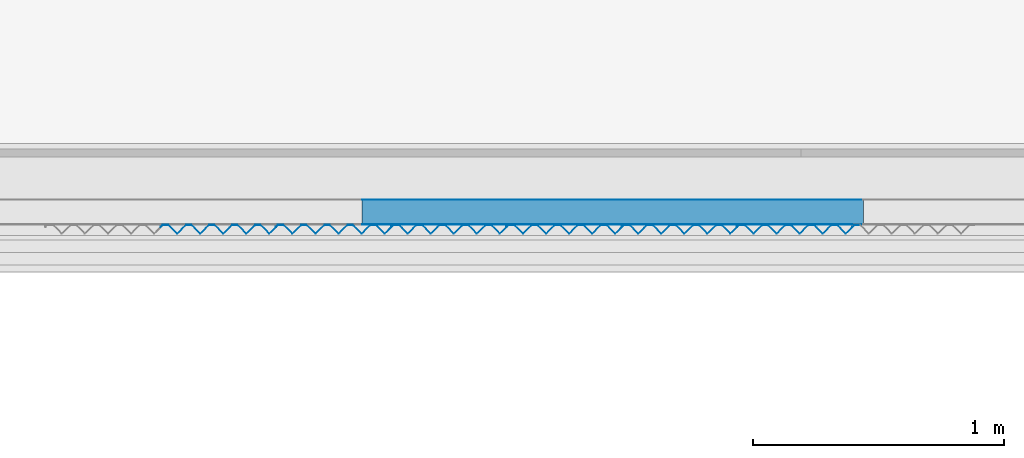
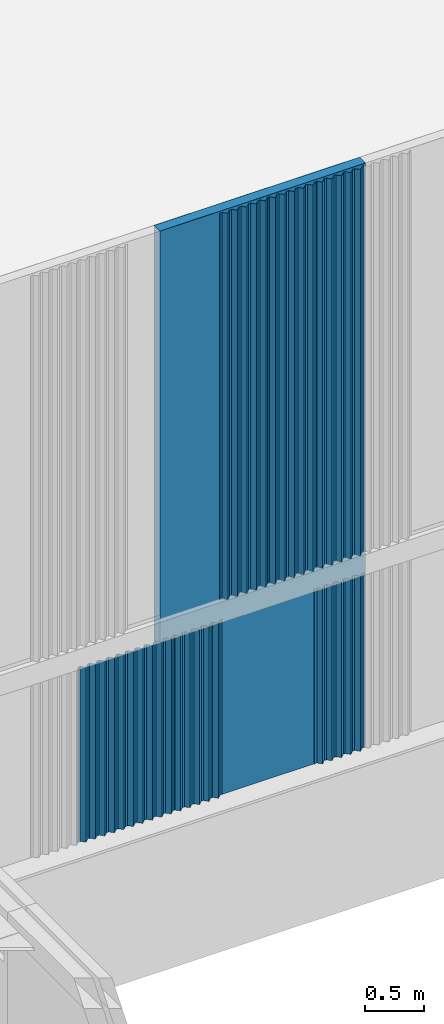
# One storey, part 88 of 338: 10 building element parts, 6 elements without a shape of their own.
"""IFC2X3 building model written with IfcOpenShell, lengths in millimetres."""

from ifc_helpers import new_model, entity, si_unit, converted_unit, derived_unit, money_unit, direction, frame, origin_with_axes, place, context, subcontext, project, spatial, faceted_brep, material, type_object, element, aggregate, save


model = new_model("IFC2X3")

# Units and contexts
model_context = context("Model", 3, precision=0.01, world=origin_with_axes(), true_north=direction((0.0, 1.0)))
plan_context = context("Plan", 3, precision=0.01, world=origin_with_axes(), true_north=direction((0.0, 1.0)))
body_context = subcontext(model_context, "Body", "Model", "MODEL_VIEW")
ifc_project = project(units=[si_unit("LENGTHUNIT", "METRE", prefix="MILLI"), si_unit("AREAUNIT", "SQUARE_METRE"), si_unit("VOLUMEUNIT", "CUBIC_METRE"), converted_unit("PLANEANGLEUNIT", "DEGREE", entity("IfcPlaneAngleMeasure", 0.0174532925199), si_unit("PLANEANGLEUNIT", "RADIAN"), dimensions=[0, 0, 0, 0, 0, 0, 0]), money_unit("EUR"), converted_unit("TIMEUNIT", "Year", entity("IfcTimeMeasure", 31556926.0), si_unit("TIMEUNIT", "SECOND"), dimensions=[0, 0, 1, 0, 0, 0, 0]), si_unit("MASSUNIT", "GRAM", prefix="KILO"), si_unit("THERMODYNAMICTEMPERATUREUNIT", "DEGREE_CELSIUS"), si_unit("LUMINOUSINTENSITYUNIT", "LUMEN"), si_unit("ENERGYUNIT", "JOULE", prefix="MEGA"), derived_unit("THERMALCONDUCTANCEUNIT", [(si_unit("POWERUNIT", "WATT"), 1), (si_unit("LENGTHUNIT", "METRE"), -1), (si_unit("THERMODYNAMICTEMPERATUREUNIT", "KELVIN"), -1)]), derived_unit("SPECIFICHEATCAPACITYUNIT", [(si_unit("ENERGYUNIT", "JOULE"), 1), (si_unit("MASSUNIT", "GRAM", prefix="KILO"), -1), (si_unit("THERMODYNAMICTEMPERATUREUNIT", "KELVIN"), -1)]), derived_unit("MASSDENSITYUNIT", [(si_unit("MASSUNIT", "GRAM", prefix="KILO"), 1), (si_unit("VOLUMEUNIT", "CUBIC_METRE"), -1)])], contexts=[model_context, plan_context])

# Site, building, storey
site_placement = place(None, origin_with_axes())
site = spatial("IfcSite", under=ifc_project, at=site_placement, Name="Fortuinstraat Woensdrecht", CompositionType="ELEMENT")
building_placement = place(site_placement, origin_with_axes())
building = spatial("IfcBuilding", under=site, at=building_placement, Name="IKC Fortuna", CompositionType="ELEMENT")
storey_placement = place(building_placement, origin_with_axes())
storey = spatial("IfcBuildingStorey", under=building, at=storey_placement, Name="00 begane grond", CompositionType="ELEMENT", Elevation=0.0)

# Wall, building element parts
wall_type = type_object("IfcWallType", Name="21 sandwich 100", PredefinedType="NOTDEFINED")
wall_placement = place(storey_placement, frame((40093.4131798, 20996.2966283, 1000.0), z_axis=(0.0, 0.0, 1.0), x_axis=(-1.0, 0.0, 0.0)))
wall = element("IfcWall", 1, at=wall_placement, inside=storey, type_object=wall_type, Name="21_Wand_sandwichplaat")
ifc_material_1 = material(Name="Metaal - Aluminium")
building_element_part_1_placement = place(wall_placement, origin_with_axes())
building_element_part_1 = element("IfcBuildingElementPart", 2, at=building_element_part_1_placement, material=ifc_material_1, Name="Metaal - Aluminium", context=body_context, shape_type="Brep", body=[
    faceted_brep([(0.0, 99.0, 6000.0), (2000.0, 99.0, 6000.0), (2000.0, 100.0, 6000.0), (0.0, 100.0, 6000.0), (0.0, 99.0, 0.0), (2000.0, 99.0, 0.0), (2000.0, 100.0, 0.0), (0.0, 100.0, 0.0)], [[[0, 1, 2, 3]], [[4, 5, 1, 0]], [[2, 1, 5, 6]], [[3, 2, 6, 7]], [[4, 0, 3, 7]], [[7, 6, 5, 4]]]),
])
ifc_material_2 = material(Name="Isolatie - Kunststof hard")
building_element_part_2_placement = place(wall_placement, origin_with_axes())
building_element_part_2 = element("IfcBuildingElementPart", 3, at=building_element_part_2_placement, material=ifc_material_2, Name="Isolatie - Kunststof hard", context=body_context, shape_type="Brep", body=[
    faceted_brep([(2000.0, 1.0, 6000.0), (2000.0, 99.0, 6000.0), (0.0, 99.0, 6000.0), (0.0, 1.0, 6000.0), (2000.0, 1.0, 0.0), (2000.0, 99.0, 0.0), (0.0, 99.0, 0.0), (0.0, 1.0, 0.0)], [[[0, 1, 2, 3]], [[0, 4, 5, 1]], [[1, 5, 6, 2]], [[3, 2, 6, 7]], [[4, 0, 3, 7]], [[5, 4, 7, 6]]]),
])
building_element_part_3_placement = place(wall_placement, origin_with_axes())
building_element_part_3 = element("IfcBuildingElementPart", 4, at=building_element_part_3_placement, material=ifc_material_1, Name="Metaal - Aluminium", context=body_context, shape_type="Brep", body=[
    faceted_brep([(2000.0, 1.0, 6000.0), (2000.0, 0.999999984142, 18.9261694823), (0.0, 0.999999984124, 18.9261694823), (0.0, 1.0, 6000.0), (2000.0, 0.0, 18.9263474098), (2000.0, 0.0, 6000.0), (0.0, 0.0, 18.9263474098), (0.0, 0.0, 6000.0)], [[[0, 1, 2, 3]], [[4, 1, 0, 5]], [[1, 4, 6, 2]], [[3, 2, 6, 7]], [[5, 0, 3, 7]], [[4, 5, 7, 6]]]),
])
aggregate(wall, [building_element_part_1, building_element_part_2, building_element_part_3])

# Proxy, building element part
building_element_proxy_type = type_object("IfcBuildingElementProxyType", Name="21 Sandwich custom pyramid 946 x 37", PredefinedType="NOTDEFINED")
proxy_1_placement = place(storey_placement, frame((40534.9270571, 20896.2966283, 3010.0), z_axis=(0.0, 0.0, 1.0), x_axis=(-1.0, 0.0, 0.0)))
proxy_1 = element("IfcBuildingElementProxy", 5, at=proxy_1_placement, inside=storey, type_object=building_element_proxy_type, Name="41_Generieke bekleding & afwerking buiten_sandwich custom pyramid")
building_element_part_4_placement = place(proxy_1_placement, origin_with_axes())
building_element_part_4 = element("IfcBuildingElementPart", 6, at=building_element_part_4_placement, material=ifc_material_1, Name="Metaal - Aluminium", context=body_context, shape_type="Brep", body=[
    faceted_brep([(460.0, 1.2, 0.0), (477.234285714, 1.2, 0.0), (477.234285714, 1.2, 3969.99999804), (460.0, 1.2, 3969.99999804), (460.0, 2.4, 0.0), (476.747100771, 2.4, 0.0), (512.0, 36.6736520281, 0.0), (548.487184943, 1.2, 0.0), (567.512815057, 1.2, 0.0), (604.0, 36.6736520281, 0.0), (640.487184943, 1.2, 0.0), (659.512815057, 1.2, 0.0), (696.0, 36.6736520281, 0.0), (732.487184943, 1.2, 0.0), (751.512815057, 1.2, 0.0), (788.0, 36.6736520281, 0.0), (824.487184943, 1.2, 0.0), (843.512815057, 1.2, 0.0), (880.0, 36.6736520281, 0.0), (916.487184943, 1.2, 0.0), (937.234285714, 1.2, 0.0), (945.472884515, 9.20974883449, 0.0), (946.309378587, 8.34935493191, 0.0), (937.721470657, 0.0, 0.0), (916.0, 0.0, 0.0), (880.0, 35.0, 0.0), (844.0, 0.0, 0.0), (824.0, 0.0, 0.0), (788.0, 35.0, 0.0), (752.0, 0.0, 0.0), (732.0, 0.0, 0.0), (696.0, 35.0, 0.0), (660.0, 0.0, 0.0), (640.0, 0.0, 0.0), (604.0, 35.0, 0.0), (568.0, 0.0, 0.0), (548.0, 0.0, 0.0), (512.0, 35.0, 0.0), (485.472879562, 9.20975302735, 0.0), (485.472879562, 9.20975302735, 3969.99999804), (512.0, 35.0, 3969.99999804), (548.0, 0.0, 3969.99999804), (568.0, 0.0, 3969.99999804), (604.0, 35.0, 3969.99999804), (640.0, 0.0, 3969.99999804), (660.0, 0.0, 3969.99999804), (696.0, 35.0, 3969.99999804), (732.0, 0.0, 3969.99999804), (752.0, 0.0, 3969.99999804), (788.0, 35.0, 3969.99999804), (824.0, 0.0, 3969.99999804), (844.0, 0.0, 3969.99999804), (880.0, 35.0, 3969.99999804), (916.0, 0.0, 3969.99999804), (937.721470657, 0.0, 3969.99999804), (946.309378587, 8.34935493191, 3969.99999804), (945.472884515, 9.20974883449, 3969.99999804), (937.234285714, 1.2, 3969.99999804), (916.487184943, 1.2, 3969.99999804), (880.0, 36.6736520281, 3969.99999804), (843.512815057, 1.2, 3969.99999804), (824.487184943, 1.2, 3969.99999804), (788.0, 36.6736520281, 3969.99999804), (751.512815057, 1.2, 3969.99999804), (732.487184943, 1.2, 3969.99999804), (696.0, 36.6736520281, 3969.99999804), (659.512815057, 1.2, 3969.99999804), (640.487184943, 1.2, 3969.99999804), (604.0, 36.6736520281, 3969.99999804), (567.512815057, 1.2, 3969.99999804), (548.487184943, 1.2, 3969.99999804), (512.0, 36.6736520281, 3969.99999804), (476.747100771, 2.4, 3969.99999804), (460.0, 2.4, 3969.99999804)], [[[0, 1, 2, 3]], [[0, 4, 5, 6, 7, 8, 9, 10, 11, 12, 13, 14, 15, 16, 17, 18, 19, 20, 21, 22, 23, 24, 25, 26, 27, 28, 29, 30, 31, 32, 33, 34, 35, 36, 37, 38, 1]], [[1, 38, 39, 2]], [[3, 2, 39, 40, 41, 42, 43, 44, 45, 46, 47, 48, 49, 50, 51, 52, 53, 54, 55, 56, 57, 58, 59, 60, 61, 62, 63, 64, 65, 66, 67, 68, 69, 70, 71, 72, 73]], [[4, 0, 3, 73]], [[5, 4, 73, 72]], [[6, 5, 72, 71]], [[7, 6, 71, 70]], [[8, 7, 70, 69]], [[9, 8, 69, 68]], [[10, 9, 68, 67]], [[11, 10, 67, 66]], [[12, 11, 66, 65]], [[13, 12, 65, 64]], [[14, 13, 64, 63]], [[15, 14, 63, 62]], [[16, 15, 62, 61]], [[17, 16, 61, 60]], [[18, 17, 60, 59]], [[19, 18, 59, 58]], [[20, 19, 58, 57]], [[21, 20, 57, 56]], [[22, 21, 56, 55]], [[23, 22, 55, 54]], [[24, 23, 54, 53]], [[25, 24, 53, 52]], [[26, 25, 52, 51]], [[27, 26, 51, 50]], [[28, 27, 50, 49]], [[29, 28, 49, 48]], [[30, 29, 48, 47]], [[31, 30, 47, 46]], [[32, 31, 46, 45]], [[33, 32, 45, 44]], [[34, 33, 44, 43]], [[35, 34, 43, 42]], [[36, 35, 42, 41]], [[37, 36, 41, 40]], [[38, 37, 40, 39]]]),
])
aggregate(proxy_1, [building_element_part_4])

# Proxy, building element parts
proxy_2_placement = place(storey_placement, frame((39614.9270571, 20896.2966283, 3010.0), z_axis=(0.0, 0.0, 1.0), x_axis=(-1.0, 0.0, 0.0)))
proxy_2 = element("IfcBuildingElementProxy", 7, at=proxy_2_placement, inside=storey, type_object=building_element_proxy_type, Name="41_Generieke bekleding & afwerking buiten_sandwich custom pyramid")
building_element_part_5_placement = place(proxy_2_placement, origin_with_axes())
building_element_part_5 = element("IfcBuildingElementPart", 8, at=building_element_part_5_placement, material=ifc_material_1, Name="Metaal - Aluminium", context=body_context, shape_type="Brep", body=[
    faceted_brep([(0.0, 2.39999686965, 0.0), (0.0, 1.20000548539, 0.0), (0.0, 1.20000548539, 3969.99999804), (0.0, 2.39999686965, 3969.99999804), (16.7470988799, 2.39999686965, 0.0), (52.0000026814, 36.6736482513, 0.0), (88.487191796, 1.20000548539, 0.0), (107.51282048, 1.20000548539, 0.0), (143.999995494, 36.6736482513, 0.0), (180.487184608, 1.20000548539, 0.0), (199.512813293, 1.20000548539, 0.0), (236.000002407, 36.6736482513, 0.0), (272.487191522, 1.20000548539, 0.0), (291.512820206, 1.20000548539, 0.0), (327.99999522, 36.6736482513, 0.0), (364.487184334, 1.20000548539, 0.0), (383.512813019, 1.20000548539, 0.0), (420.000002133, 36.6736482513, 0.0), (456.487191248, 1.20000548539, 0.0), (460.000006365, 1.20000548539, 0.0), (477.23428491, 1.20000548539, 0.0), (485.472879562, 9.20975302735, 0.0), (486.309372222, 8.34935896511, 0.0), (477.721464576, 0.0, 0.0), (455.999997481, 0.0, 0.0), (420.000002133, 35.0000001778, 0.0), (384.000006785, 0.0, 0.0), (364.000004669, 0.0, 0.0), (327.99999522, 35.0000001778, 0.0), (291.999999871, 0.0, 0.0), (271.999997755, 0.0, 0.0), (236.000002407, 35.0000001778, 0.0), (199.999992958, 0.0, 0.0), (180.000004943, 0.0, 0.0), (143.999995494, 35.0000001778, 0.0), (108.000000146, 0.0, 0.0), (87.9999980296, 0.0, 0.0), (52.0000026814, 35.0000001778, 0.0), (17.2342926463, 1.20000548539, 0.0), (17.2342926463, 1.20000548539, 3969.99999804), (52.0000026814, 35.0000001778, 3969.99999804), (87.9999980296, 0.0, 3969.99999804), (108.000000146, 0.0, 3969.99999804), (143.999995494, 35.0000001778, 3969.99999804), (180.000004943, 0.0, 3969.99999804), (199.999992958, 0.0, 3969.99999804), (236.000002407, 35.0000001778, 3969.99999804), (271.999997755, 0.0, 3969.99999804), (291.999999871, 0.0, 3969.99999804), (327.99999522, 35.0000001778, 3969.99999804), (364.000004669, 0.0, 3969.99999804), (384.000006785, 0.0, 3969.99999804), (420.000002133, 35.0000001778, 3969.99999804), (455.999997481, 0.0, 3969.99999804), (477.721464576, 0.0, 3969.99999804), (486.309372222, 8.34935896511, 3969.99999804), (485.472879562, 9.20975302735, 3969.99999804), (477.23428491, 1.20000548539, 3969.99999804), (460.000006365, 1.20000548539, 3969.99999804), (456.487191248, 1.20000548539, 3969.99999804), (420.000002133, 36.6736482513, 3969.99999804), (383.512813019, 1.20000548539, 3969.99999804), (364.487184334, 1.20000548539, 3969.99999804), (327.99999522, 36.6736482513, 3969.99999804), (291.512820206, 1.20000548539, 3969.99999804), (272.487191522, 1.20000548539, 3969.99999804), (236.000002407, 36.6736482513, 3969.99999804), (199.512813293, 1.20000548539, 3969.99999804), (180.487184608, 1.20000548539, 3969.99999804), (143.999995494, 36.6736482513, 3969.99999804), (107.51282048, 1.20000548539, 3969.99999804), (88.487191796, 1.20000548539, 3969.99999804), (52.0000026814, 36.6736482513, 3969.99999804), (16.7470988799, 2.39999686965, 3969.99999804)], [[[0, 1, 2, 3]], [[0, 4, 5, 6, 7, 8, 9, 10, 11, 12, 13, 14, 15, 16, 17, 18, 19, 20, 21, 22, 23, 24, 25, 26, 27, 28, 29, 30, 31, 32, 33, 34, 35, 36, 37, 38, 1]], [[1, 38, 39, 2]], [[3, 2, 39, 40, 41, 42, 43, 44, 45, 46, 47, 48, 49, 50, 51, 52, 53, 54, 55, 56, 57, 58, 59, 60, 61, 62, 63, 64, 65, 66, 67, 68, 69, 70, 71, 72, 73]], [[4, 0, 3, 73]], [[5, 4, 73, 72]], [[6, 5, 72, 71]], [[7, 6, 71, 70]], [[8, 7, 70, 69]], [[9, 8, 69, 68]], [[10, 9, 68, 67]], [[11, 10, 67, 66]], [[12, 11, 66, 65]], [[13, 12, 65, 64]], [[14, 13, 64, 63]], [[15, 14, 63, 62]], [[16, 15, 62, 61]], [[17, 16, 61, 60]], [[18, 17, 60, 59]], [[19, 18, 59, 58]], [[20, 19, 58, 57]], [[21, 20, 57, 56]], [[22, 21, 56, 55]], [[23, 22, 55, 54]], [[24, 23, 54, 53]], [[25, 24, 53, 52]], [[26, 25, 52, 51]], [[27, 26, 51, 50]], [[28, 27, 50, 49]], [[29, 28, 49, 48]], [[30, 29, 48, 47]], [[31, 30, 47, 46]], [[32, 31, 46, 45]], [[33, 32, 45, 44]], [[34, 33, 44, 43]], [[35, 34, 43, 42]], [[36, 35, 42, 41]], [[37, 36, 41, 40]], [[38, 37, 40, 39]]]),
])
building_element_part_6_placement = place(proxy_2_placement, origin_with_axes())
building_element_part_6 = element("IfcBuildingElementPart", 9, at=building_element_part_6_placement, material=ifc_material_1, Name="Metaal - Aluminium", context=body_context, shape_type="Brep", body=[
    faceted_brep([(460.0, 1.2, 0.0), (477.234285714, 1.2, 0.0), (477.234285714, 1.2, 3969.99999804), (460.0, 1.2, 3969.99999804), (460.0, 2.4, 0.0), (476.747100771, 2.4, 0.0), (512.0, 36.6736520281, 0.0), (548.487184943, 1.2, 0.0), (567.512815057, 1.2, 0.0), (604.0, 36.6736520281, 0.0), (640.487184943, 1.2, 0.0), (659.512815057, 1.2, 0.0), (696.0, 36.6736520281, 0.0), (732.487184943, 1.2, 0.0), (751.512815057, 1.2, 0.0), (788.0, 36.6736520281, 0.0), (824.487184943, 1.2, 0.0), (843.512815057, 1.2, 0.0), (880.0, 36.6736520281, 0.0), (916.487184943, 1.2, 0.0), (937.234285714, 1.2, 0.0), (945.472884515, 9.20974883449, 0.0), (946.309378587, 8.34935493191, 0.0), (937.721470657, 0.0, 0.0), (916.0, 0.0, 0.0), (880.0, 35.0, 0.0), (844.0, 0.0, 0.0), (824.0, 0.0, 0.0), (788.0, 35.0, 0.0), (752.0, 0.0, 0.0), (732.0, 0.0, 0.0), (696.0, 35.0, 0.0), (660.0, 0.0, 0.0), (640.0, 0.0, 0.0), (604.0, 35.0, 0.0), (568.0, 0.0, 0.0), (548.0, 0.0, 0.0), (512.0, 35.0, 0.0), (485.472879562, 9.20975302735, 0.0), (485.472879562, 9.20975302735, 3969.99999804), (512.0, 35.0, 3969.99999804), (548.0, 0.0, 3969.99999804), (568.0, 0.0, 3969.99999804), (604.0, 35.0, 3969.99999804), (640.0, 0.0, 3969.99999804), (660.0, 0.0, 3969.99999804), (696.0, 35.0, 3969.99999804), (732.0, 0.0, 3969.99999804), (752.0, 0.0, 3969.99999804), (788.0, 35.0, 3969.99999804), (824.0, 0.0, 3969.99999804), (844.0, 0.0, 3969.99999804), (880.0, 35.0, 3969.99999804), (916.0, 0.0, 3969.99999804), (937.721470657, 0.0, 3969.99999804), (946.309378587, 8.34935493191, 3969.99999804), (945.472884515, 9.20974883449, 3969.99999804), (937.234285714, 1.2, 3969.99999804), (916.487184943, 1.2, 3969.99999804), (880.0, 36.6736520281, 3969.99999804), (843.512815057, 1.2, 3969.99999804), (824.487184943, 1.2, 3969.99999804), (788.0, 36.6736520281, 3969.99999804), (751.512815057, 1.2, 3969.99999804), (732.487184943, 1.2, 3969.99999804), (696.0, 36.6736520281, 3969.99999804), (659.512815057, 1.2, 3969.99999804), (640.487184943, 1.2, 3969.99999804), (604.0, 36.6736520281, 3969.99999804), (567.512815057, 1.2, 3969.99999804), (548.487184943, 1.2, 3969.99999804), (512.0, 36.6736520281, 3969.99999804), (476.747100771, 2.4, 3969.99999804), (460.0, 2.4, 3969.99999804)], [[[0, 1, 2, 3]], [[0, 4, 5, 6, 7, 8, 9, 10, 11, 12, 13, 14, 15, 16, 17, 18, 19, 20, 21, 22, 23, 24, 25, 26, 27, 28, 29, 30, 31, 32, 33, 34, 35, 36, 37, 38, 1]], [[1, 38, 39, 2]], [[3, 2, 39, 40, 41, 42, 43, 44, 45, 46, 47, 48, 49, 50, 51, 52, 53, 54, 55, 56, 57, 58, 59, 60, 61, 62, 63, 64, 65, 66, 67, 68, 69, 70, 71, 72, 73]], [[4, 0, 3, 73]], [[5, 4, 73, 72]], [[6, 5, 72, 71]], [[7, 6, 71, 70]], [[8, 7, 70, 69]], [[9, 8, 69, 68]], [[10, 9, 68, 67]], [[11, 10, 67, 66]], [[12, 11, 66, 65]], [[13, 12, 65, 64]], [[14, 13, 64, 63]], [[15, 14, 63, 62]], [[16, 15, 62, 61]], [[17, 16, 61, 60]], [[18, 17, 60, 59]], [[19, 18, 59, 58]], [[20, 19, 58, 57]], [[21, 20, 57, 56]], [[22, 21, 56, 55]], [[23, 22, 55, 54]], [[24, 23, 54, 53]], [[25, 24, 53, 52]], [[26, 25, 52, 51]], [[27, 26, 51, 50]], [[28, 27, 50, 49]], [[29, 28, 49, 48]], [[30, 29, 48, 47]], [[31, 30, 47, 46]], [[32, 31, 46, 45]], [[33, 32, 45, 44]], [[34, 33, 44, 43]], [[35, 34, 43, 42]], [[36, 35, 42, 41]], [[37, 36, 41, 40]], [[38, 37, 40, 39]]]),
])
aggregate(proxy_2, [building_element_part_5, building_element_part_6])

# Proxy, building element part
proxy_3_placement = place(storey_placement, frame((37774.9270571, 20896.2966283, 1000.0), z_axis=(0.0, 0.0, 1.0), x_axis=(-1.0, 0.0, 0.0)))
proxy_3 = element("IfcBuildingElementProxy", 10, at=proxy_3_placement, inside=storey, type_object=building_element_proxy_type, Name="41_Generieke bekleding & afwerking buiten_sandwich custom pyramid")
building_element_part_7_placement = place(proxy_3_placement, origin_with_axes())
building_element_part_7 = element("IfcBuildingElementPart", 11, at=building_element_part_7_placement, material=ifc_material_1, Name="Metaal - Aluminium", context=body_context, shape_type="Brep", body=[
    faceted_brep([(0.0, 2.39999686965, 0.0), (0.0, 1.20000548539, 0.0), (0.0, 1.20000548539, 1800.85690838), (0.0, 2.39999686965, 1800.85690838), (16.7470988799, 2.39999686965, 0.0), (52.0000026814, 36.6736482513, 0.0), (88.487191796, 1.20000548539, 0.0), (107.51282048, 1.20000548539, 0.0), (143.999995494, 36.6736482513, 0.0), (180.487184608, 1.20000548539, 0.0), (199.512813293, 1.20000548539, 0.0), (236.000002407, 36.6736482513, 0.0), (272.487191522, 1.20000548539, 0.0), (291.512820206, 1.20000548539, 0.0), (327.99999522, 36.6736482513, 0.0), (364.487184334, 1.20000548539, 0.0), (383.512813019, 1.20000548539, 0.0), (420.000002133, 36.6736482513, 0.0), (456.487191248, 1.20000548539, 0.0), (460.000006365, 1.20000548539, 0.0), (477.23428491, 1.20000548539, 0.0), (485.472879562, 9.20975302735, 0.0), (486.309372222, 8.34935896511, 0.0), (477.721464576, 0.0, 0.0), (455.999997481, 0.0, 0.0), (420.000002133, 35.0000001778, 0.0), (384.000006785, 0.0, 0.0), (364.000004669, 0.0, 0.0), (327.99999522, 35.0000001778, 0.0), (291.999999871, 0.0, 0.0), (271.999997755, 0.0, 0.0), (236.000002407, 35.0000001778, 0.0), (199.999992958, 0.0, 0.0), (180.000004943, 0.0, 0.0), (143.999995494, 35.0000001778, 0.0), (108.000000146, 0.0, 0.0), (87.9999980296, 0.0, 0.0), (52.0000026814, 35.0000001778, 0.0), (17.2342926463, 1.20000548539, 0.0), (17.2342926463, 1.20000548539, 1800.85690838), (52.0000026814, 35.0000001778, 1800.85690838), (87.9999980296, 0.0, 1800.85690838), (108.000000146, 0.0, 1800.85690838), (143.999995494, 35.0000001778, 1800.85690838), (180.000004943, 0.0, 1800.85690838), (199.999992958, 0.0, 1800.85690838), (236.000002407, 35.0000001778, 1800.85690838), (271.999997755, 0.0, 1800.85690838), (291.999999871, 0.0, 1800.85690838), (327.99999522, 35.0000001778, 1800.85690838), (364.000004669, 0.0, 1800.85690838), (384.000006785, 0.0, 1800.85690838), (420.000002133, 35.0000001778, 1800.85690838), (455.999997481, 0.0, 1800.85690838), (477.721464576, 0.0, 1800.85690838), (486.309372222, 8.34935896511, 1800.85690838), (485.472879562, 9.20975302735, 1800.85690838), (477.23428491, 1.20000548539, 1800.85690838), (460.000006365, 1.20000548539, 1800.85690838), (456.487191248, 1.20000548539, 1800.85690838), (420.000002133, 36.6736482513, 1800.85690838), (383.512813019, 1.20000548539, 1800.85690838), (364.487184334, 1.20000548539, 1800.85690838), (327.99999522, 36.6736482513, 1800.85690838), (291.512820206, 1.20000548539, 1800.85690838), (272.487191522, 1.20000548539, 1800.85690838), (236.000002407, 36.6736482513, 1800.85690838), (199.512813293, 1.20000548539, 1800.85690838), (180.487184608, 1.20000548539, 1800.85690838), (143.999995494, 36.6736482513, 1800.85690838), (107.51282048, 1.20000548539, 1800.85690838), (88.487191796, 1.20000548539, 1800.85690838), (52.0000026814, 36.6736482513, 1800.85690838), (16.7470988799, 2.39999686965, 1800.85690838)], [[[0, 1, 2, 3]], [[0, 4, 5, 6, 7, 8, 9, 10, 11, 12, 13, 14, 15, 16, 17, 18, 19, 20, 21, 22, 23, 24, 25, 26, 27, 28, 29, 30, 31, 32, 33, 34, 35, 36, 37, 38, 1]], [[1, 38, 39, 2]], [[3, 2, 39, 40, 41, 42, 43, 44, 45, 46, 47, 48, 49, 50, 51, 52, 53, 54, 55, 56, 57, 58, 59, 60, 61, 62, 63, 64, 65, 66, 67, 68, 69, 70, 71, 72, 73]], [[4, 0, 3, 73]], [[5, 4, 73, 72]], [[6, 5, 72, 71]], [[7, 6, 71, 70]], [[8, 7, 70, 69]], [[9, 8, 69, 68]], [[10, 9, 68, 67]], [[11, 10, 67, 66]], [[12, 11, 66, 65]], [[13, 12, 65, 64]], [[14, 13, 64, 63]], [[15, 14, 63, 62]], [[16, 15, 62, 61]], [[17, 16, 61, 60]], [[18, 17, 60, 59]], [[19, 18, 59, 58]], [[20, 19, 58, 57]], [[21, 20, 57, 56]], [[22, 21, 56, 55]], [[23, 22, 55, 54]], [[24, 23, 54, 53]], [[25, 24, 53, 52]], [[26, 25, 52, 51]], [[27, 26, 51, 50]], [[28, 27, 50, 49]], [[29, 28, 49, 48]], [[30, 29, 48, 47]], [[31, 30, 47, 46]], [[32, 31, 46, 45]], [[33, 32, 45, 44]], [[34, 33, 44, 43]], [[35, 34, 43, 42]], [[36, 35, 42, 41]], [[37, 36, 41, 40]], [[38, 37, 40, 39]]]),
])
aggregate(proxy_3, [building_element_part_7])

# Proxy, building element parts
proxy_4_placement = place(storey_placement, frame((38694.9270571, 20896.2966283, 1000.0), z_axis=(0.0, 0.0, 1.0), x_axis=(-1.0, 0.0, 0.0)))
proxy_4 = element("IfcBuildingElementProxy", 12, at=proxy_4_placement, inside=storey, type_object=building_element_proxy_type, Name="41_Generieke bekleding & afwerking buiten_sandwich custom pyramid")
building_element_part_8_placement = place(proxy_4_placement, origin_with_axes())
building_element_part_8 = element("IfcBuildingElementPart", 13, at=building_element_part_8_placement, material=ifc_material_1, Name="Metaal - Aluminium", context=body_context, shape_type="Brep", body=[
    faceted_brep([(0.0, 2.39999686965, 0.0), (0.0, 1.20000548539, 0.0), (0.0, 1.20000548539, 1800.85690838), (0.0, 2.39999686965, 1800.85690838), (16.7470988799, 2.39999686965, 0.0), (52.0000026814, 36.6736482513, 0.0), (88.487191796, 1.20000548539, 0.0), (107.51282048, 1.20000548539, 0.0), (143.999995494, 36.6736482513, 0.0), (180.487184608, 1.20000548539, 0.0), (199.512813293, 1.20000548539, 0.0), (236.000002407, 36.6736482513, 0.0), (272.487191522, 1.20000548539, 0.0), (291.512820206, 1.20000548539, 0.0), (327.99999522, 36.6736482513, 0.0), (364.487184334, 1.20000548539, 0.0), (383.512813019, 1.20000548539, 0.0), (420.000002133, 36.6736482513, 0.0), (456.487191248, 1.20000548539, 0.0), (460.000006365, 1.20000548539, 0.0), (477.23428491, 1.20000548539, 0.0), (485.472879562, 9.20975302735, 0.0), (486.309372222, 8.34935896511, 0.0), (477.721464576, 0.0, 0.0), (455.999997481, 0.0, 0.0), (420.000002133, 35.0000001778, 0.0), (384.000006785, 0.0, 0.0), (364.000004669, 0.0, 0.0), (327.99999522, 35.0000001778, 0.0), (291.999999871, 0.0, 0.0), (271.999997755, 0.0, 0.0), (236.000002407, 35.0000001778, 0.0), (199.999992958, 0.0, 0.0), (180.000004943, 0.0, 0.0), (143.999995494, 35.0000001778, 0.0), (108.000000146, 0.0, 0.0), (87.9999980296, 0.0, 0.0), (52.0000026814, 35.0000001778, 0.0), (17.2342926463, 1.20000548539, 0.0), (17.2342926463, 1.20000548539, 1800.85690838), (52.0000026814, 35.0000001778, 1800.85690838), (87.9999980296, 0.0, 1800.85690838), (108.000000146, 0.0, 1800.85690838), (143.999995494, 35.0000001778, 1800.85690838), (180.000004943, 0.0, 1800.85690838), (199.999992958, 0.0, 1800.85690838), (236.000002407, 35.0000001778, 1800.85690838), (271.999997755, 0.0, 1800.85690838), (291.999999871, 0.0, 1800.85690838), (327.99999522, 35.0000001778, 1800.85690838), (364.000004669, 0.0, 1800.85690838), (384.000006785, 0.0, 1800.85690838), (420.000002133, 35.0000001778, 1800.85690838), (455.999997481, 0.0, 1800.85690838), (477.721464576, 0.0, 1800.85690838), (486.309372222, 8.34935896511, 1800.85690838), (485.472879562, 9.20975302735, 1800.85690838), (477.23428491, 1.20000548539, 1800.85690838), (460.000006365, 1.20000548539, 1800.85690838), (456.487191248, 1.20000548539, 1800.85690838), (420.000002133, 36.6736482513, 1800.85690838), (383.512813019, 1.20000548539, 1800.85690838), (364.487184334, 1.20000548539, 1800.85690838), (327.99999522, 36.6736482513, 1800.85690838), (291.512820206, 1.20000548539, 1800.85690838), (272.487191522, 1.20000548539, 1800.85690838), (236.000002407, 36.6736482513, 1800.85690838), (199.512813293, 1.20000548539, 1800.85690838), (180.487184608, 1.20000548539, 1800.85690838), (143.999995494, 36.6736482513, 1800.85690838), (107.51282048, 1.20000548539, 1800.85690838), (88.487191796, 1.20000548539, 1800.85690838), (52.0000026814, 36.6736482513, 1800.85690838), (16.7470988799, 2.39999686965, 1800.85690838)], [[[0, 1, 2, 3]], [[0, 4, 5, 6, 7, 8, 9, 10, 11, 12, 13, 14, 15, 16, 17, 18, 19, 20, 21, 22, 23, 24, 25, 26, 27, 28, 29, 30, 31, 32, 33, 34, 35, 36, 37, 38, 1]], [[1, 38, 39, 2]], [[3, 2, 39, 40, 41, 42, 43, 44, 45, 46, 47, 48, 49, 50, 51, 52, 53, 54, 55, 56, 57, 58, 59, 60, 61, 62, 63, 64, 65, 66, 67, 68, 69, 70, 71, 72, 73]], [[4, 0, 3, 73]], [[5, 4, 73, 72]], [[6, 5, 72, 71]], [[7, 6, 71, 70]], [[8, 7, 70, 69]], [[9, 8, 69, 68]], [[10, 9, 68, 67]], [[11, 10, 67, 66]], [[12, 11, 66, 65]], [[13, 12, 65, 64]], [[14, 13, 64, 63]], [[15, 14, 63, 62]], [[16, 15, 62, 61]], [[17, 16, 61, 60]], [[18, 17, 60, 59]], [[19, 18, 59, 58]], [[20, 19, 58, 57]], [[21, 20, 57, 56]], [[22, 21, 56, 55]], [[23, 22, 55, 54]], [[24, 23, 54, 53]], [[25, 24, 53, 52]], [[26, 25, 52, 51]], [[27, 26, 51, 50]], [[28, 27, 50, 49]], [[29, 28, 49, 48]], [[30, 29, 48, 47]], [[31, 30, 47, 46]], [[32, 31, 46, 45]], [[33, 32, 45, 44]], [[34, 33, 44, 43]], [[35, 34, 43, 42]], [[36, 35, 42, 41]], [[37, 36, 41, 40]], [[38, 37, 40, 39]]]),
])
building_element_part_9_placement = place(proxy_4_placement, origin_with_axes())
building_element_part_9 = element("IfcBuildingElementPart", 14, at=building_element_part_9_placement, material=ifc_material_1, Name="Metaal - Aluminium", context=body_context, shape_type="Brep", body=[
    faceted_brep([(460.0, 1.2, 0.0), (477.234285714, 1.2, 0.0), (477.234285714, 1.2, 1800.85690838), (460.0, 1.2, 1800.85690838), (460.0, 2.4, 0.0), (476.747100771, 2.4, 0.0), (512.0, 36.6736520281, 0.0), (548.487184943, 1.2, 0.0), (567.512815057, 1.2, 0.0), (604.0, 36.6736520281, 0.0), (640.487184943, 1.2, 0.0), (659.512815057, 1.2, 0.0), (696.0, 36.6736520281, 0.0), (732.487184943, 1.2, 0.0), (751.512815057, 1.2, 0.0), (788.0, 36.6736520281, 0.0), (824.487184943, 1.2, 0.0), (843.512815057, 1.2, 0.0), (880.0, 36.6736520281, 0.0), (916.487184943, 1.2, 0.0), (937.234285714, 1.2, 0.0), (945.472884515, 9.20974883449, 0.0), (946.309378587, 8.34935493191, 0.0), (937.721470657, 0.0, 0.0), (916.0, 0.0, 0.0), (880.0, 35.0, 0.0), (844.0, 0.0, 0.0), (824.0, 0.0, 0.0), (788.0, 35.0, 0.0), (752.0, 0.0, 0.0), (732.0, 0.0, 0.0), (696.0, 35.0, 0.0), (660.0, 0.0, 0.0), (640.0, 0.0, 0.0), (604.0, 35.0, 0.0), (568.0, 0.0, 0.0), (548.0, 0.0, 0.0), (512.0, 35.0, 0.0), (485.472879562, 9.20975302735, 0.0), (485.472879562, 9.20975302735, 1800.85690838), (512.0, 35.0, 1800.85690838), (548.0, 0.0, 1800.85690838), (568.0, 0.0, 1800.85690838), (604.0, 35.0, 1800.85690838), (640.0, 0.0, 1800.85690838), (660.0, 0.0, 1800.85690838), (696.0, 35.0, 1800.85690838), (732.0, 0.0, 1800.85690838), (752.0, 0.0, 1800.85690838), (788.0, 35.0, 1800.85690838), (824.0, 0.0, 1800.85690838), (844.0, 0.0, 1800.85690838), (880.0, 35.0, 1800.85690838), (916.0, 0.0, 1800.85690838), (937.721470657, 0.0, 1800.85690838), (946.309378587, 8.34935493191, 1800.85690838), (945.472884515, 9.20974883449, 1800.85690838), (937.234285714, 1.2, 1800.85690838), (916.487184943, 1.2, 1800.85690838), (880.0, 36.6736520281, 1800.85690838), (843.512815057, 1.2, 1800.85690838), (824.487184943, 1.2, 1800.85690838), (788.0, 36.6736520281, 1800.85690838), (751.512815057, 1.2, 1800.85690838), (732.487184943, 1.2, 1800.85690838), (696.0, 36.6736520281, 1800.85690838), (659.512815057, 1.2, 1800.85690838), (640.487184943, 1.2, 1800.85690838), (604.0, 36.6736520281, 1800.85690838), (567.512815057, 1.2, 1800.85690838), (548.487184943, 1.2, 1800.85690838), (512.0, 36.6736520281, 1800.85690838), (476.747100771, 2.4, 1800.85690838), (460.0, 2.4, 1800.85690838)], [[[0, 1, 2, 3]], [[0, 4, 5, 6, 7, 8, 9, 10, 11, 12, 13, 14, 15, 16, 17, 18, 19, 20, 21, 22, 23, 24, 25, 26, 27, 28, 29, 30, 31, 32, 33, 34, 35, 36, 37, 38, 1]], [[1, 38, 39, 2]], [[3, 2, 39, 40, 41, 42, 43, 44, 45, 46, 47, 48, 49, 50, 51, 52, 53, 54, 55, 56, 57, 58, 59, 60, 61, 62, 63, 64, 65, 66, 67, 68, 69, 70, 71, 72, 73]], [[4, 0, 3, 73]], [[5, 4, 73, 72]], [[6, 5, 72, 71]], [[7, 6, 71, 70]], [[8, 7, 70, 69]], [[9, 8, 69, 68]], [[10, 9, 68, 67]], [[11, 10, 67, 66]], [[12, 11, 66, 65]], [[13, 12, 65, 64]], [[14, 13, 64, 63]], [[15, 14, 63, 62]], [[16, 15, 62, 61]], [[17, 16, 61, 60]], [[18, 17, 60, 59]], [[19, 18, 59, 58]], [[20, 19, 58, 57]], [[21, 20, 57, 56]], [[22, 21, 56, 55]], [[23, 22, 55, 54]], [[24, 23, 54, 53]], [[25, 24, 53, 52]], [[26, 25, 52, 51]], [[27, 26, 51, 50]], [[28, 27, 50, 49]], [[29, 28, 49, 48]], [[30, 29, 48, 47]], [[31, 30, 47, 46]], [[32, 31, 46, 45]], [[33, 32, 45, 44]], [[34, 33, 44, 43]], [[35, 34, 43, 42]], [[36, 35, 42, 41]], [[37, 36, 41, 40]], [[38, 37, 40, 39]]]),
])
aggregate(proxy_4, [building_element_part_8, building_element_part_9])

# Proxy, building element part
proxy_5_placement = place(storey_placement, frame((40534.9270571, 20896.2966283, 1000.0), z_axis=(0.0, 0.0, 1.0), x_axis=(-1.0, 0.0, 0.0)))
proxy_5 = element("IfcBuildingElementProxy", 15, at=proxy_5_placement, inside=storey, type_object=building_element_proxy_type, Name="41_Generieke bekleding & afwerking buiten_sandwich custom pyramid")
building_element_part_10_placement = place(proxy_5_placement, origin_with_axes())
building_element_part_10 = element("IfcBuildingElementPart", 16, at=building_element_part_10_placement, material=ifc_material_1, Name="Metaal - Aluminium", context=body_context, shape_type="Brep", body=[
    faceted_brep([(460.0, 1.2, 0.0), (477.234285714, 1.2, 0.0), (477.234285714, 1.2, 1800.85690838), (460.0, 1.2, 1800.85690838), (460.0, 2.4, 0.0), (476.747100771, 2.4, 0.0), (512.0, 36.6736520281, 0.0), (548.487184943, 1.2, 0.0), (567.512815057, 1.2, 0.0), (604.0, 36.6736520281, 0.0), (640.487184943, 1.2, 0.0), (659.512815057, 1.2, 0.0), (696.0, 36.6736520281, 0.0), (732.487184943, 1.2, 0.0), (751.512815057, 1.2, 0.0), (788.0, 36.6736520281, 0.0), (824.487184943, 1.2, 0.0), (843.512815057, 1.2, 0.0), (880.0, 36.6736520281, 0.0), (916.487184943, 1.2, 0.0), (937.234285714, 1.2, 0.0), (945.472884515, 9.20974883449, 0.0), (946.309378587, 8.34935493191, 0.0), (937.721470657, 0.0, 0.0), (916.0, 0.0, 0.0), (880.0, 35.0, 0.0), (844.0, 0.0, 0.0), (824.0, 0.0, 0.0), (788.0, 35.0, 0.0), (752.0, 0.0, 0.0), (732.0, 0.0, 0.0), (696.0, 35.0, 0.0), (660.0, 0.0, 0.0), (640.0, 0.0, 0.0), (604.0, 35.0, 0.0), (568.0, 0.0, 0.0), (548.0, 0.0, 0.0), (512.0, 35.0, 0.0), (485.472879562, 9.20975302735, 0.0), (485.472879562, 9.20975302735, 1800.85690838), (512.0, 35.0, 1800.85690838), (548.0, 0.0, 1800.85690838), (568.0, 0.0, 1800.85690838), (604.0, 35.0, 1800.85690838), (640.0, 0.0, 1800.85690838), (660.0, 0.0, 1800.85690838), (696.0, 35.0, 1800.85690838), (732.0, 0.0, 1800.85690838), (752.0, 0.0, 1800.85690838), (788.0, 35.0, 1800.85690838), (824.0, 0.0, 1800.85690838), (844.0, 0.0, 1800.85690838), (880.0, 35.0, 1800.85690838), (916.0, 0.0, 1800.85690838), (937.721470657, 0.0, 1800.85690838), (946.309378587, 8.34935493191, 1800.85690838), (945.472884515, 9.20974883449, 1800.85690838), (937.234285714, 1.2, 1800.85690838), (916.487184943, 1.2, 1800.85690838), (880.0, 36.6736520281, 1800.85690838), (843.512815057, 1.2, 1800.85690838), (824.487184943, 1.2, 1800.85690838), (788.0, 36.6736520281, 1800.85690838), (751.512815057, 1.2, 1800.85690838), (732.487184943, 1.2, 1800.85690838), (696.0, 36.6736520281, 1800.85690838), (659.512815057, 1.2, 1800.85690838), (640.487184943, 1.2, 1800.85690838), (604.0, 36.6736520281, 1800.85690838), (567.512815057, 1.2, 1800.85690838), (548.487184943, 1.2, 1800.85690838), (512.0, 36.6736520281, 1800.85690838), (476.747100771, 2.4, 1800.85690838), (460.0, 2.4, 1800.85690838)], [[[0, 1, 2, 3]], [[0, 4, 5, 6, 7, 8, 9, 10, 11, 12, 13, 14, 15, 16, 17, 18, 19, 20, 21, 22, 23, 24, 25, 26, 27, 28, 29, 30, 31, 32, 33, 34, 35, 36, 37, 38, 1]], [[1, 38, 39, 2]], [[3, 2, 39, 40, 41, 42, 43, 44, 45, 46, 47, 48, 49, 50, 51, 52, 53, 54, 55, 56, 57, 58, 59, 60, 61, 62, 63, 64, 65, 66, 67, 68, 69, 70, 71, 72, 73]], [[4, 0, 3, 73]], [[5, 4, 73, 72]], [[6, 5, 72, 71]], [[7, 6, 71, 70]], [[8, 7, 70, 69]], [[9, 8, 69, 68]], [[10, 9, 68, 67]], [[11, 10, 67, 66]], [[12, 11, 66, 65]], [[13, 12, 65, 64]], [[14, 13, 64, 63]], [[15, 14, 63, 62]], [[16, 15, 62, 61]], [[17, 16, 61, 60]], [[18, 17, 60, 59]], [[19, 18, 59, 58]], [[20, 19, 58, 57]], [[21, 20, 57, 56]], [[22, 21, 56, 55]], [[23, 22, 55, 54]], [[24, 23, 54, 53]], [[25, 24, 53, 52]], [[26, 25, 52, 51]], [[27, 26, 51, 50]], [[28, 27, 50, 49]], [[29, 28, 49, 48]], [[30, 29, 48, 47]], [[31, 30, 47, 46]], [[32, 31, 46, 45]], [[33, 32, 45, 44]], [[34, 33, 44, 43]], [[35, 34, 43, 42]], [[36, 35, 42, 41]], [[37, 36, 41, 40]], [[38, 37, 40, 39]]]),
])
aggregate(proxy_5, [building_element_part_10])

save(model, "model.ifc")
